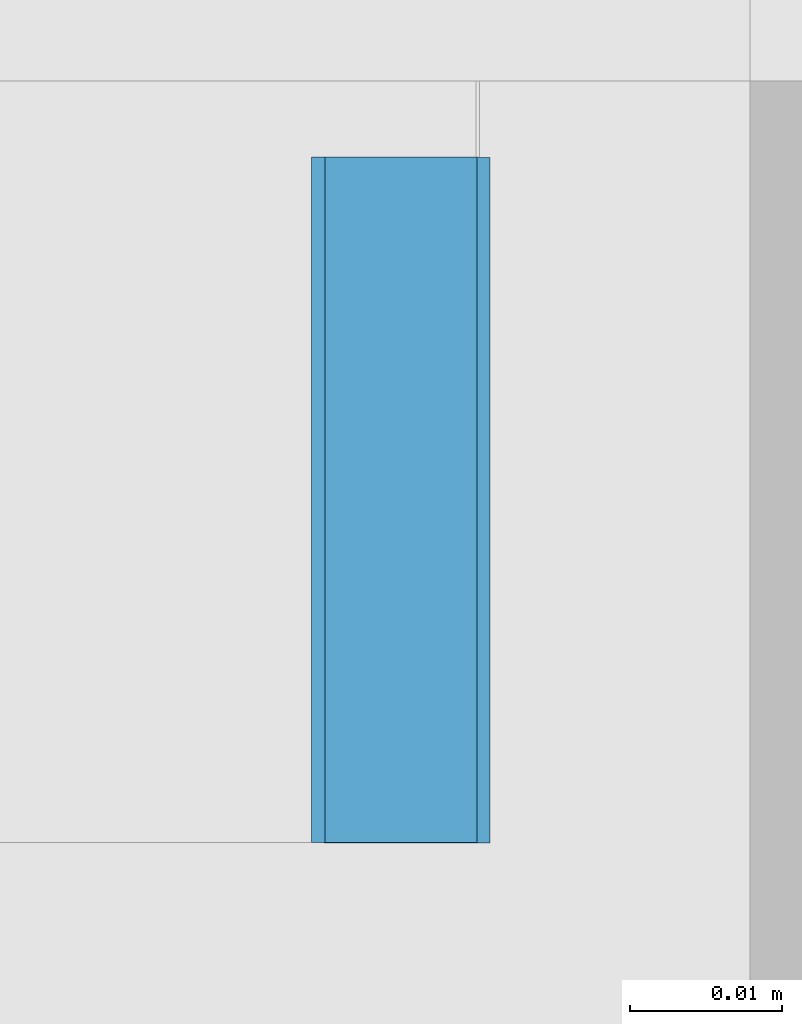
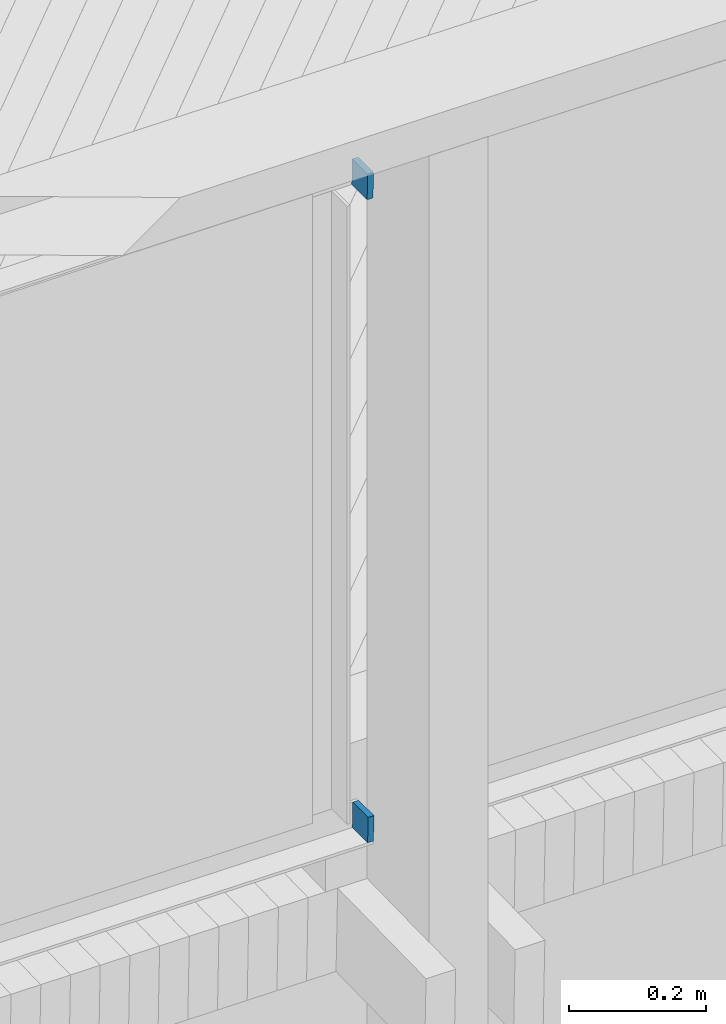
# One storey, part 60 of 65: 2 beams.
"""IFC2X3 building model written with IfcOpenShell, lengths in millimetres."""

from ifc_helpers import new_model, si_unit, frame, origin_with_axes, place, context, subcontext, project, spatial, faceted_brep, material, type_object, element, save


model = new_model("IFC2X3")

# Units and contexts
model_context = context("Model", 3, precision=1e-05, world=origin_with_axes())
body_context = subcontext(model_context, "Body", "Model", "MODEL_VIEW")
ifc_project = project(units=[si_unit("LENGTHUNIT", "METRE", prefix="MILLI"), si_unit("AREAUNIT", "SQUARE_METRE"), si_unit("VOLUMEUNIT", "CUBIC_METRE"), si_unit("MASSUNIT", "GRAM", prefix="KILO"), si_unit("TIMEUNIT", "SECOND"), si_unit("PLANEANGLEUNIT", "RADIAN"), si_unit("SOLIDANGLEUNIT", "STERADIAN"), si_unit("THERMODYNAMICTEMPERATUREUNIT", "DEGREE_CELSIUS"), si_unit("LUMINOUSINTENSITYUNIT", "LUMEN")], contexts=[model_context])

# Site, building, storey
site_placement = place(None, origin_with_axes())
site = spatial("IfcSite", under=ifc_project, at=site_placement, Name="Undefined", CompositionType="ELEMENT")
building_placement = place(site_placement, origin_with_axes())
building = spatial("IfcBuilding", under=site, at=building_placement, Name="Undefined", CompositionType="ELEMENT")
storey_placement = place(building_placement, origin_with_axes())
storey = spatial("IfcBuildingStorey", under=building, at=storey_placement, Name="Undefined", CompositionType="ELEMENT", Elevation=0.0)

# Beams
ifc_material = material(Name="STEEL/S235JR")
beam_type = type_object("IfcBeamType", Name="PL45*10", PredefinedType="NOTDEFINED")
for number, where, z_axis, x_axis, name in (
    (1, (11926.6522968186, 20210.0100000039, 4426.09038344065), (0.0194951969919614, 0.0, 0.999809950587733), (0.0, -1.0, 0.0), "BEAM"),
    (2, (11927.4691843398, 20209.9800000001, 3281.08430635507), (-0.020103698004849, 0.0, -0.999797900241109), (0.0, -1.0, 0.0), "BEAM"),
):
    element("IfcBeam", number, at=place(storey_placement, frame(where, z_axis=z_axis, x_axis=x_axis)), inside=storey, type_object=beam_type, material=ifc_material, Name=name, ObjectType="PL45*10", context=body_context, shape_type="Brep", body=[
        faceted_brep([(0.0, 5.0, -22.5), (0.0, 5.0, 22.5), (45.0, 5.0, 22.5), (45.0, 5.0, -22.5), (0.0, -5.0, 22.5), (45.0, -5.0, 22.5), (0.0, -5.0, -22.5000000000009), (45.0, -5.0, -22.5000000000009)], [[[0, 1, 2, 3]], [[1, 4, 5, 2]], [[4, 6, 7, 5]], [[6, 0, 3, 7]], [[5, 7, 3, 2]], [[6, 4, 1, 0]]]),
    ])

save(model, "model.ifc")
